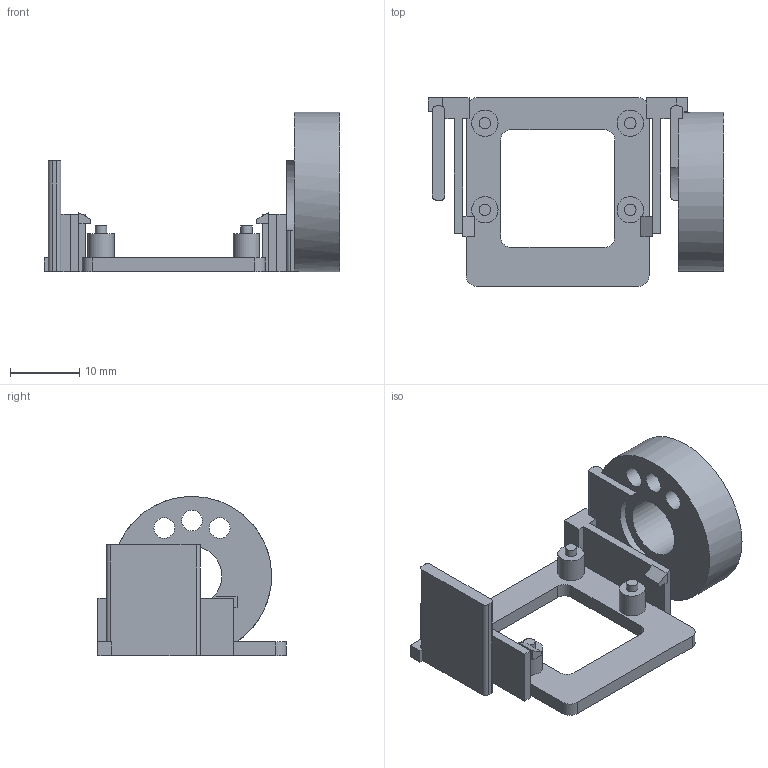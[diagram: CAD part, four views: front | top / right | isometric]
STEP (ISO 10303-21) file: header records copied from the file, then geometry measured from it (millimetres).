
FILE_DESCRIPTION(('Open CASCADE Model'),'2;1');
FILE_NAME('Open CASCADE Shape Model','2026-10-14T00:43:49',('Author'),( 'Open CASCADE'),'Open CASCADE STEP processor 8.0','build123d', 'Unknown');
FILE_SCHEMA(('AUTOMOTIVE_DESIGN { 1 0 10303 214 1 1 1 1 }'));
Length unit declared in the file: millimetre
Products named in the file (1): COMPOUND
Bounding box: 42.7 x 27.2 x 23 mm (x, y, z)
Volume: 4386.5 mm3; surface area: 4448.3 mm2
Topology: 1 solids, 1 shells, 97 faces, 255 edges, 168 vertices
Faces by surface type: plane 67, cylinder 30
Full cylindrical faces by diameter (mm): 1.65 x4, 3 x3, 3.8 x4, 8.6 x1, 23 x1
Entity records: 6344 total; most frequent: CARTESIAN_POINT 1260, DIRECTION 924, LINE 561, VECTOR 561, ORIENTED_EDGE 510, PCURVE 510, DEFINITIONAL_REPRESENTATION 510, EDGE_CURVE 255
